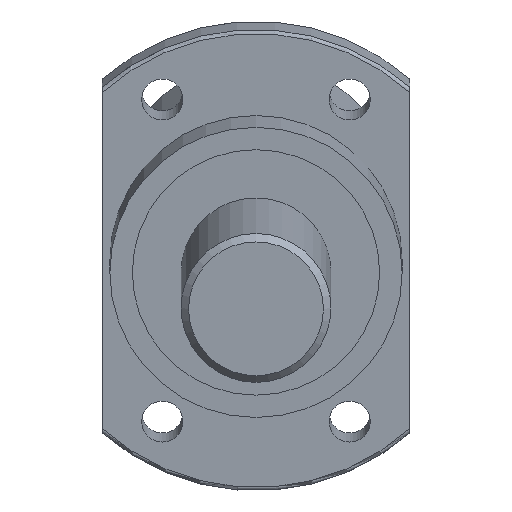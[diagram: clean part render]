
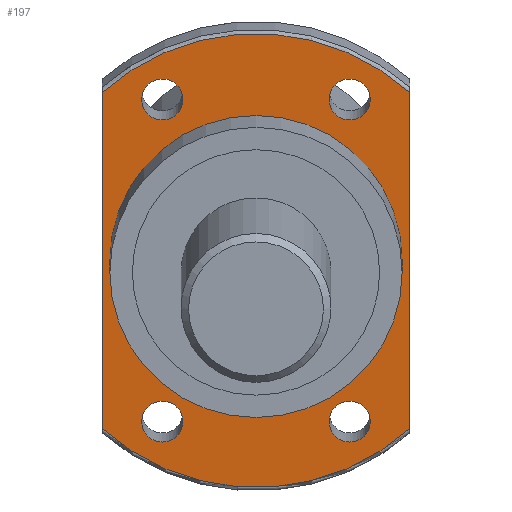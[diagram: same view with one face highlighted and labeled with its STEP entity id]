
A CAD part, left-side view. The second image highlights one B-rep face of the part: STEP entity #197.
In plain terms, the highlighted planar face has unit normal (-0.993, 0, -0.122) as drawn and (-1, 0, 0) by its records, which use the part's own axes.
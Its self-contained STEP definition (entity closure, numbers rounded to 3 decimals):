
#103=LINE('',#1369,#111);
#104=LINE('',#1370,#112);
#111=VECTOR('',#1019,1.);
#112=VECTOR('',#1020,1.);
#156=PLANE('',#837);
#197=ADVANCED_FACE('',(#297,#298,#299,#300,#301,#302),#156,.T.);
#297=FACE_BOUND('',#395,.T.);
#298=FACE_BOUND('',#396,.T.);
#299=FACE_BOUND('',#397,.T.);
#300=FACE_BOUND('',#398,.T.);
#301=FACE_BOUND('',#399,.T.);
#302=FACE_BOUND('',#400,.T.);
#395=EDGE_LOOP('',(#518));
#396=EDGE_LOOP('',(#519,#520,#521,#522));
#397=EDGE_LOOP('',(#523));
#398=EDGE_LOOP('',(#524));
#399=EDGE_LOOP('',(#525));
#400=EDGE_LOOP('',(#526));
#518=ORIENTED_EDGE('',*,*,#648,.T.);
#519=ORIENTED_EDGE('',*,*,#689,.F.);
#520=ORIENTED_EDGE('',*,*,#672,.F.);
#521=ORIENTED_EDGE('',*,*,#690,.T.);
#522=ORIENTED_EDGE('',*,*,#687,.F.);
#523=ORIENTED_EDGE('',*,*,#691,.F.);
#524=ORIENTED_EDGE('',*,*,#692,.F.);
#525=ORIENTED_EDGE('',*,*,#693,.F.);
#526=ORIENTED_EDGE('',*,*,#694,.F.);
#586=VERTEX_POINT('',#1128);
#607=VERTEX_POINT('',#1242);
#608=VERTEX_POINT('',#1262);
#619=VERTEX_POINT('',#1346);
#620=VERTEX_POINT('',#1348);
#621=VERTEX_POINT('',#1372);
#622=VERTEX_POINT('',#1374);
#623=VERTEX_POINT('',#1376);
#624=VERTEX_POINT('',#1378);
#648=EDGE_CURVE('',#586,#586,#718,.T.);
#672=EDGE_CURVE('',#608,#607,#736,.T.);
#687=EDGE_CURVE('',#619,#620,#744,.T.);
#689=EDGE_CURVE('',#607,#619,#103,.T.);
#690=EDGE_CURVE('',#608,#620,#104,.T.);
#691=EDGE_CURVE('',#621,#621,#745,.T.);
#692=EDGE_CURVE('',#622,#622,#746,.T.);
#693=EDGE_CURVE('',#623,#623,#747,.T.);
#694=EDGE_CURVE('',#624,#624,#748,.T.);
#718=CIRCLE('',#784,19.5);
#736=CIRCLE('',#819,30.5);
#744=CIRCLE('',#831,30.5);
#745=CIRCLE('',#833,2.75);
#746=CIRCLE('',#834,2.75);
#747=CIRCLE('',#835,2.75);
#748=CIRCLE('',#836,2.75);
#784=AXIS2_PLACEMENT_3D('',#1127,#915,#916);
#819=AXIS2_PLACEMENT_3D('',#1263,#987,#988);
#831=AXIS2_PLACEMENT_3D('',#1347,#1015,#1016);
#833=AXIS2_PLACEMENT_3D('',#1371,#1021,#1022);
#834=AXIS2_PLACEMENT_3D('',#1373,#1023,#1024);
#835=AXIS2_PLACEMENT_3D('',#1375,#1025,#1026);
#836=AXIS2_PLACEMENT_3D('',#1377,#1027,#1028);
#837=AXIS2_PLACEMENT_3D('',#1379,#1029,#1030);
#915=DIRECTION('',(1.,0.,0.));
#916=DIRECTION('',(0.,-1.,0.));
#987=DIRECTION('',(1.,0.,0.));
#988=DIRECTION('',(0.,1.,0.));
#1015=DIRECTION('',(1.,0.,0.));
#1016=DIRECTION('',(0.,1.,0.));
#1019=DIRECTION('',(0.,0.,1.));
#1020=DIRECTION('',(0.,0.,1.));
#1021=DIRECTION('',(-1.,0.,0.));
#1022=DIRECTION('',(0.,-1.,0.));
#1023=DIRECTION('',(-1.,0.,0.));
#1024=DIRECTION('',(0.,-1.,0.));
#1025=DIRECTION('',(-1.,0.,0.));
#1026=DIRECTION('',(0.,-1.,0.));
#1027=DIRECTION('',(-1.,0.,0.));
#1028=DIRECTION('',(0.,-1.,0.));
#1029=DIRECTION('',(-1.,0.,0.));
#1030=DIRECTION('',(0.,-1.,0.));
#1127=CARTESIAN_POINT('',(193.099,105.726,0.));
#1128=CARTESIAN_POINT('',(193.099,86.226,0.));
#1242=CARTESIAN_POINT('',(193.099,126.226,-22.583));
#1262=CARTESIAN_POINT('',(193.099,85.226,-22.583));
#1263=CARTESIAN_POINT('',(193.099,105.726,0.));
#1346=CARTESIAN_POINT('',(193.099,126.226,22.583));
#1347=CARTESIAN_POINT('',(193.099,105.726,0.));
#1348=CARTESIAN_POINT('',(193.099,85.226,22.583));
#1369=CARTESIAN_POINT('',(193.099,126.226,0.));
#1370=CARTESIAN_POINT('',(193.099,85.226,0.));
#1371=CARTESIAN_POINT('',(193.099,118.226,21.65));
#1372=CARTESIAN_POINT('',(193.099,115.476,21.65));
#1373=CARTESIAN_POINT('',(193.099,93.226,21.65));
#1374=CARTESIAN_POINT('',(193.099,90.476,21.65));
#1375=CARTESIAN_POINT('',(193.099,93.226,-21.65));
#1376=CARTESIAN_POINT('',(193.099,90.476,-21.65));
#1377=CARTESIAN_POINT('',(193.099,118.226,-21.65));
#1378=CARTESIAN_POINT('',(193.099,115.476,-21.65));
#1379=CARTESIAN_POINT('',(193.099,136.226,0.));
